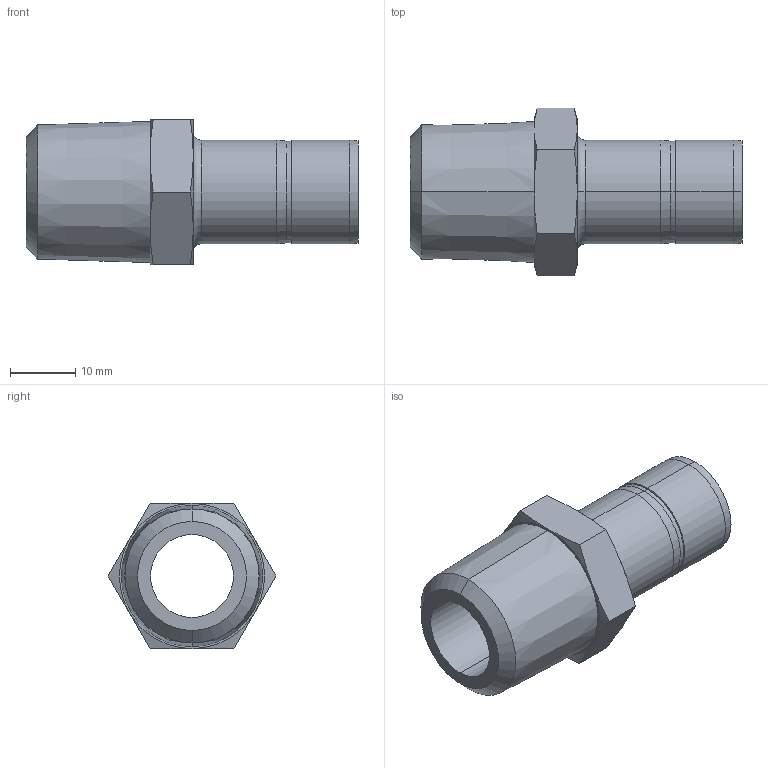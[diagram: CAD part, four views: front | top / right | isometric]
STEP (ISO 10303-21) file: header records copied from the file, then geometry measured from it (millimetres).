
FILE_DESCRIPTION (( 'STEP AP203' ), '1' );
FILE_NAME ('DHA10-08 SS.STEP', '2009-09-08T06:15:05', ( ' ' ), ( '' ), 'SwSTEP 2.0', 'SolidWorks 2008', '' );
FILE_SCHEMA (( 'CONFIG_CONTROL_DESIGN' ));
Length unit declared in the file: millimetre
Products named in the file (1): DHA10-08 SS
Bounding box: 50.8 x 25.67 x 22.23 mm (x, y, z)
Volume: 7853.7 mm3; surface area: 5493.1 mm2
Topology: 1 solids, 1 shells, 42 faces, 88 edges, 50 vertices
Faces by surface type: cone 22, plane 10, cylinder 8, torus 2
Entity records: 1257 total; most frequent: CARTESIAN_POINT 301, DIRECTION 190, ORIENTED_EDGE 176, EDGE_CURVE 88, AXIS2_PLACEMENT_3D 83, VERTEX_POINT 50, EDGE_LOOP 46, ADVANCED_FACE 42
